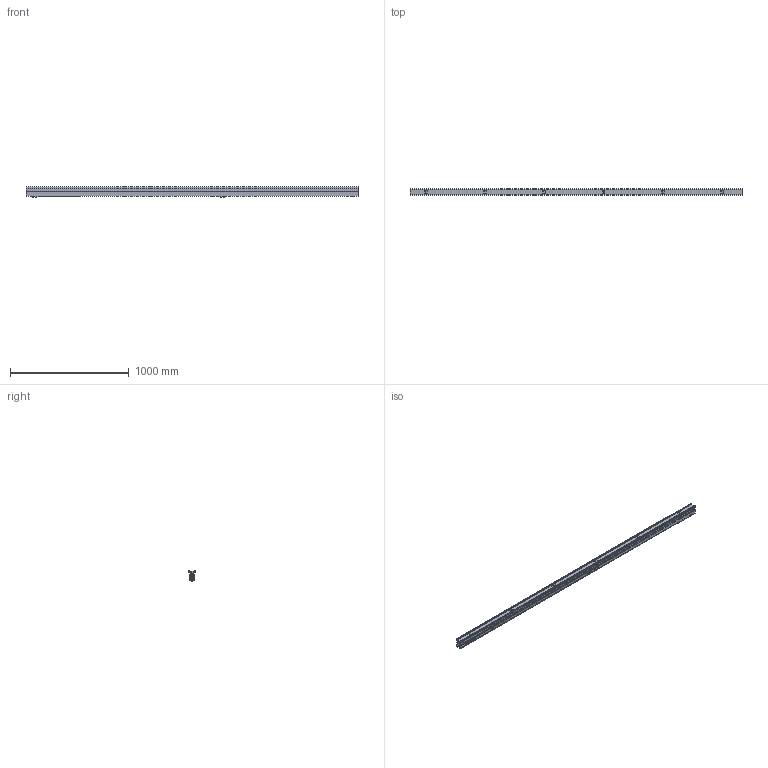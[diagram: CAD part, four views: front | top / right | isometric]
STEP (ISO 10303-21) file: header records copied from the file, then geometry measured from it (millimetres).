
FILE_DESCRIPTION(('STEP AP242'),'1');
FILE_NAME('OPO_65.084.12.stp','2026-02-23T17:29:17',(' '),(' '),'Spatial InterOp 3D',' ',' ');
FILE_SCHEMA(('AP242_MANAGED_MODEL_BASED_3D_ENGINEERING_MIM_LF {1 0 10303 442 1 1 4}'));
Length unit declared in the file: millimetre
Products named in the file (11): Zeichnung1; OPO_65.084.12_Magnetantrieb_Teil1; OPO_65.084.12_Magnetantrieb_Teil2; OPO_65.084.12_Magnetantrieb_Teil3; OPO_65.084.12_Magnetantrieb_Teil4; OPO_65.084.12_Magnetantrieb_Teil5; OPO_65.084.12_Magnetantrieb_Teil6; OPO_65.084.12_Magnetantrieb_Teil7; OPO_65.084.12_Magnetantrieb_Teil8; OPO_65.084.32; AutoCreatedBlock_110
Assembly tree (11 placements, depth 2):
  Zeichnung1
    OPO_65.084.12_Magnetantrieb_Teil1
    OPO_65.084.12_Magnetantrieb_Teil2
    OPO_65.084.12_Magnetantrieb_Teil3
    OPO_65.084.12_Magnetantrieb_Teil4
    OPO_65.084.12_Magnetantrieb_Teil5  x2
    OPO_65.084.12_Magnetantrieb_Teil6
    OPO_65.084.12_Magnetantrieb_Teil7
    OPO_65.084.12_Magnetantrieb_Teil8
    OPO_65.084.32
    AutoCreatedBlock_110
Bounding box: 2800 x 55 x 86.1 mm (x, y, z)
Volume: 3201772.3 mm3; surface area: 2059420.6 mm2
Topology: 58 solids, 58 shells, 1481 faces, 3919 edges, 2596 vertices
Faces by surface type: plane 958, cylinder 521, cone 2
Entity records: 55161 total; most frequent: CARTESIAN_POINT 8068, DIRECTION 7443, ORIENTED_EDGE 7378, EDGE_CURVE 3689, LINE 2685, VECTOR 2685, VERTEX_POINT 2444, AXIS2_PLACEMENT_3D 2379
